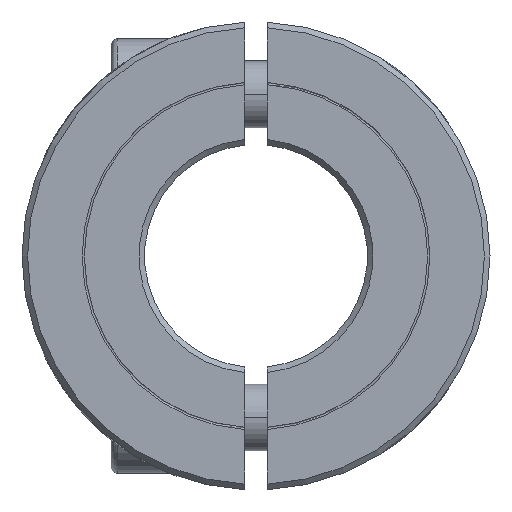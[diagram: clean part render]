
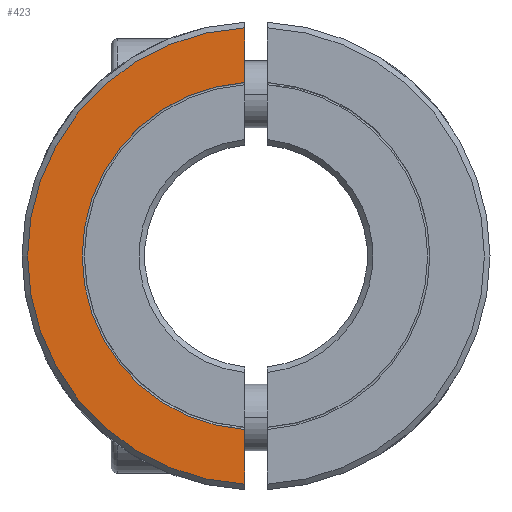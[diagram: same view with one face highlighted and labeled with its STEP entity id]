
A CAD part, left-side view. The second image highlights one B-rep face of the part: STEP entity #423.
In plain terms, the highlighted planar face has unit normal (-1, 0, 0).
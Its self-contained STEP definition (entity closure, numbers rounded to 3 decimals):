
#26=CARTESIAN_POINT('',(-7.5,0.,0.));
#27=DIRECTION('',(-1.,0.,0.));
#28=DIRECTION('',(0.,0.064,0.998));
#29=AXIS2_PLACEMENT_3D('',#26,#27,#28);
#31=DIRECTION('',(0.,0.,-1.));
#32=VECTOR('',#31,4.908);
#33=CARTESIAN_POINT('',(-7.5,1.,-15.568));
#34=LINE('',#33,#32);
#35=DIRECTION('',(0.,0.,-1.));
#36=VECTOR('',#35,4.908);
#37=CARTESIAN_POINT('',(-7.5,1.,20.476));
#38=LINE('',#37,#36);
#207=CARTESIAN_POINT('',(-7.5,0.,0.));
#208=DIRECTION('',(1.,0.,0.));
#209=DIRECTION('',(0.,0.049,-0.999));
#210=AXIS2_PLACEMENT_3D('',#207,#208,#209);
#368=CARTESIAN_POINT('',(-7.5,1.,-20.476));
#369=CARTESIAN_POINT('',(-7.5,1.,20.476));
#370=VERTEX_POINT('',#368);
#371=VERTEX_POINT('',#369);
#400=CARTESIAN_POINT('',(-7.5,1.,15.568));
#401=CARTESIAN_POINT('',(-7.5,1.,-15.568));
#402=VERTEX_POINT('',#400);
#403=VERTEX_POINT('',#401);
#408=CARTESIAN_POINT('',(-7.5,0.,0.));
#409=DIRECTION('',(1.,0.,0.));
#410=DIRECTION('',(0.,0.,-1.));
#411=AXIS2_PLACEMENT_3D('',#408,#409,#410);
#412=PLANE('',#411);
#414=ORIENTED_EDGE('',*,*,#413,.T.);
#416=ORIENTED_EDGE('',*,*,#415,.T.);
#418=ORIENTED_EDGE('',*,*,#417,.T.);
#420=ORIENTED_EDGE('',*,*,#419,.T.);
#421=EDGE_LOOP('',(#414,#416,#418,#420));
#422=FACE_OUTER_BOUND('',#421,.F.);
#423=ADVANCED_FACE('',(#422),#412,.F.);
#30=CIRCLE('',#29,15.6);
#211=CIRCLE('',#210,20.5);
#413=EDGE_CURVE('',#402,#403,#30,.T.);
#415=EDGE_CURVE('',#403,#370,#34,.T.);
#417=EDGE_CURVE('',#370,#371,#211,.T.);
#419=EDGE_CURVE('',#371,#402,#38,.T.);
